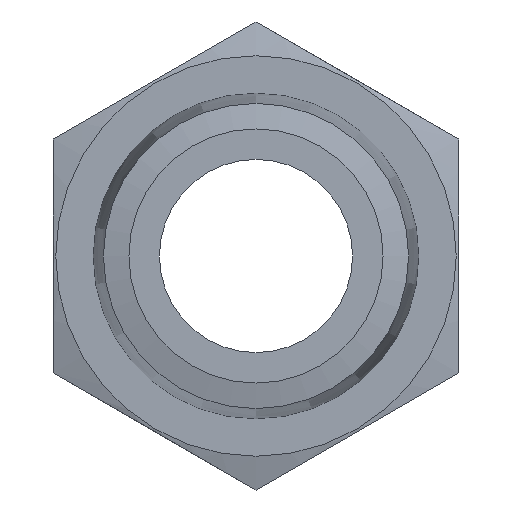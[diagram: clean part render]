
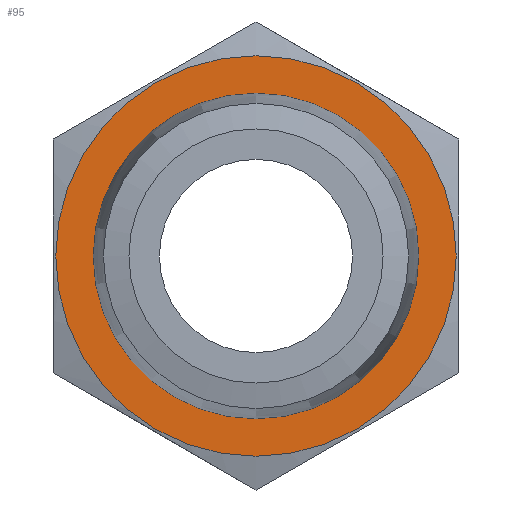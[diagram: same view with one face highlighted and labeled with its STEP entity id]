
A CAD part, front view. The second image highlights one B-rep face of the part: STEP entity #95.
In plain terms, the highlighted planar face has unit normal (0, -1, 0).
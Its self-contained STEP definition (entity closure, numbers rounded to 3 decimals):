
#95 = ADVANCED_FACE( '', ( #166, #167 ), #168, .F. );
#166 = FACE_BOUND( '', #277, .T. );
#167 = FACE_OUTER_BOUND( '', #278, .T. );
#168 = PLANE( '', #279 );
#277 = EDGE_LOOP( '', ( #494 ) );
#278 = EDGE_LOOP( '', ( #495 ) );
#279 = AXIS2_PLACEMENT_3D( '', #496, #497, #498 );
#494 = ORIENTED_EDGE( '', *, *, #680, .T. );
#495 = ORIENTED_EDGE( '', *, *, #681, .T. );
#496 = CARTESIAN_POINT( '', ( 8.4, 14., 0. ) );
#497 = DIRECTION( '', ( 0., 1., 0. ) );
#498 = DIRECTION( '', ( 0., 0., 1. ) );
#680 = EDGE_CURVE( '', #799, #799, #800, .T. );
#681 = EDGE_CURVE( '', #801, #801, #802, .T. );
#799 = VERTEX_POINT( '', #1049 );
#800 = CIRCLE( '', #1050, 6.828 );
#801 = VERTEX_POINT( '', #1051 );
#802 = CIRCLE( '', #1052, 8.4 );
#1049 = CARTESIAN_POINT( '', ( 0., 14., 6.828 ) );
#1050 = AXIS2_PLACEMENT_3D( '', #1187, #1188, #1189 );
#1051 = CARTESIAN_POINT( '', ( 0., 14., -8.4 ) );
#1052 = AXIS2_PLACEMENT_3D( '', #1190, #1191, #1192 );
#1187 = CARTESIAN_POINT( '', ( 0., 14., 0. ) );
#1188 = DIRECTION( '', ( 0., 1., 0. ) );
#1189 = DIRECTION( '', ( 0., 0., 1. ) );
#1190 = CARTESIAN_POINT( '', ( 0., 14., 0. ) );
#1191 = DIRECTION( '', ( 0., -1., 0. ) );
#1192 = DIRECTION( '', ( 0., 0., -1. ) );
